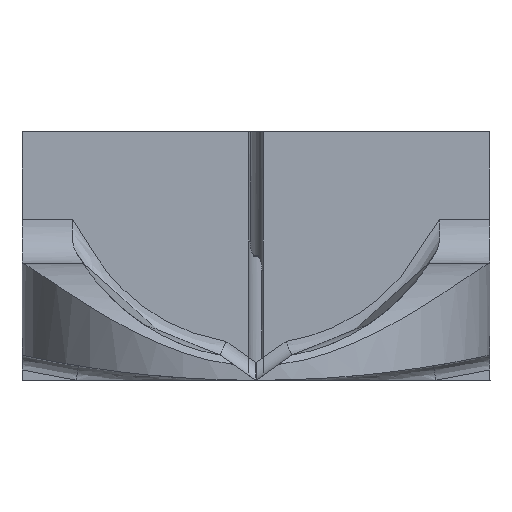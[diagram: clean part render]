
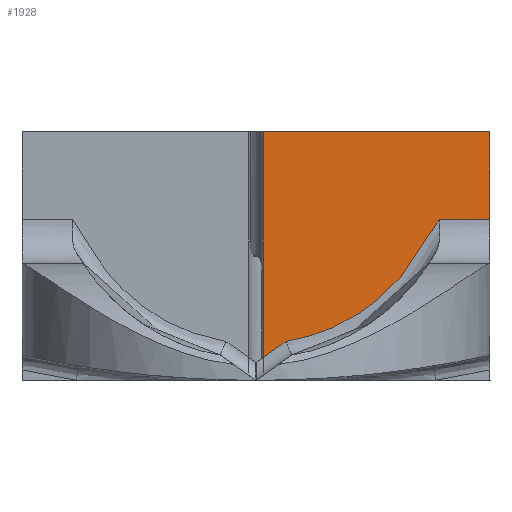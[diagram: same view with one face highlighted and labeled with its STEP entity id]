
A CAD part, left-side view. The second image highlights one B-rep face of the part: STEP entity #1928.
In plain terms, the highlighted planar face has unit normal (1, 0, 0).
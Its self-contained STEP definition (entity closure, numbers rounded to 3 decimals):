
#50 = CARTESIAN_POINT ( 'NONE',  ( -21., -8., -6. ) ) ;
#105 = EDGE_CURVE ( 'NONE', #1496, #1377, #1927, .T. ) ;
#192 = FACE_OUTER_BOUND ( 'NONE', #6833, .T. ) ;
#264 = CARTESIAN_POINT ( 'NONE',  ( -21., -11.742, -7.259 ) ) ;
#287 = CARTESIAN_POINT ( 'NONE',  ( -21., -10.648, -8.958 ) ) ;
#318 = CARTESIAN_POINT ( 'NONE',  ( -21., -8.505, -11.336 ) ) ;
#339 = CARTESIAN_POINT ( 'NONE',  ( -21., -2.842, -14.186 ) ) ;
#441 = DIRECTION ( 'NONE',  ( 0., 0., -1. ) ) ;
#524 = DIRECTION ( 'NONE',  ( 0., 0.819, -0.574 ) ) ;
#596 = EDGE_CURVE ( 'NONE', #5291, #1496, #2897, .T. ) ;
#676 = ORIENTED_EDGE ( 'NONE', *, *, #7178, .F. ) ;
#740 = CARTESIAN_POINT ( 'NONE',  ( -21., -0.5, -5.55 ) ) ;
#826 = LINE ( 'NONE', #4000, #5038 ) ;
#834 = CARTESIAN_POINT ( 'NONE',  ( -21., -11.541, -7.575 ) ) ;
#856 = CARTESIAN_POINT ( 'NONE',  ( -21., -10.629, -8.985 ) ) ;
#878 = CARTESIAN_POINT ( 'NONE',  ( -21., -7.137, -12.393 ) ) ;
#903 = EDGE_CURVE ( 'NONE', #6911, #3377, #826, .T. ) ;
#904 = CARTESIAN_POINT ( 'NONE',  ( -21., -2.614, -14.235 ) ) ;
#1129 = CARTESIAN_POINT ( 'NONE',  ( -21., -16., 0. ) ) ;
#1221 = ORIENTED_EDGE ( 'NONE', *, *, #903, .T. ) ;
#1357 = VECTOR ( 'NONE', #3476, 1000. ) ;
#1377 = VERTEX_POINT ( 'NONE', #4377 ) ;
#1395 = CARTESIAN_POINT ( 'NONE',  ( -21., -12.541, -6. ) ) ;
#1416 = CARTESIAN_POINT ( 'NONE',  ( -21., -11.261, -8.017 ) ) ;
#1440 = CARTESIAN_POINT ( 'NONE',  ( -21., -10.624, -8.991 ) ) ;
#1469 = CARTESIAN_POINT ( 'NONE',  ( -21., -5.884, -13.096 ) ) ;
#1495 = CARTESIAN_POINT ( 'NONE',  ( -21., -2.522, -14.253 ) ) ;
#1496 = VERTEX_POINT ( 'NONE', #1760 ) ;
#1760 = CARTESIAN_POINT ( 'NONE',  ( -21., -0.5, -15.429 ) ) ;
#1797 = DIRECTION ( 'NONE',  ( 0., 0., -1. ) ) ;
#1824 = DIRECTION ( 'NONE',  ( 1., 0., 0. ) ) ;
#1927 = LINE ( 'NONE', #740, #4766 ) ;
#1928 = ADVANCED_FACE ( 'NONE', ( #192 ), #3888, .T. ) ;
#1986 = AXIS2_PLACEMENT_3D ( 'NONE', #2080, #1824, #1797 ) ;
#1996 = CARTESIAN_POINT ( 'NONE',  ( -21., -11.202, -8.11 ) ) ;
#2010 = CARTESIAN_POINT ( 'NONE',  ( -21., 52.024, 0. ) ) ;
#2020 = CARTESIAN_POINT ( 'NONE',  ( -21., -10.2, -9.57 ) ) ;
#2045 = CARTESIAN_POINT ( 'NONE',  ( -21., -5.1, -13.461 ) ) ;
#2070 = CARTESIAN_POINT ( 'NONE',  ( -21., -2.5, -14.257 ) ) ;
#2080 = CARTESIAN_POINT ( 'NONE',  ( -21., -18.2, 1.7 ) ) ;
#2251 = VECTOR ( 'NONE', #5972, 1000. ) ;
#2541 = CARTESIAN_POINT ( 'NONE',  ( -21., -11.997, -6.856 ) ) ;
#2562 = CARTESIAN_POINT ( 'NONE',  ( -21., -11.139, -8.21 ) ) ;
#2585 = CARTESIAN_POINT ( 'NONE',  ( -21., -9.732, -10.12 ) ) ;
#2589 = DIRECTION ( 'NONE',  ( 0., 0., 1. ) ) ;
#2609 = CARTESIAN_POINT ( 'NONE',  ( -21., -4.295, -13.771 ) ) ;
#2640 = CARTESIAN_POINT ( 'NONE',  ( -21., -2.39, -14.279 ) ) ;
#2897 = LINE ( 'NONE', #4672, #4244 ) ;
#3104 = CARTESIAN_POINT ( 'NONE',  ( -21., -11.789, -7.184 ) ) ;
#3130 = CARTESIAN_POINT ( 'NONE',  ( -21., -10.856, -8.65 ) ) ;
#3155 = CARTESIAN_POINT ( 'NONE',  ( -21., -9.34, -10.547 ) ) ;
#3180 = B_SPLINE_CURVE_WITH_KNOTS ( 'NONE', 3,
 ( #1395, #4806, #5941, #2541, #6504, #3104, #7082, #3689, #264, #4272, #834, #4826, #1416, #5389, #1996, #5962, #2562, #6531, #3130, #7106, #3716, #287, #4291, #856, #4851, #1440, #5411, #2020, #5982, #2585, #6557, #3155, #7133, #3741, #318, #4315, #878, #4878, #1469, #5432, #2045, #6011, #2609, #6579, #3181, #7160, #3768, #339, #4344, #904, #4901, #1495, #5463, #2070, #6037, #2640, #6604, #3201 ),
 .UNSPECIFIED., .F., .F.,
 ( 4, 1, 1, 1, 2, 2, 1, 1, 1, 2, 2, 1, 1, 1, 1, 1, 1, 1, 2, 2, 1, 2, 2, 2, 2, 1, 2, 2, 1, 2, 2, 2, 1, 1, 1, 1, 2, 2, 4 ),
 ( 0., 0.063, 0.094, 0.098, 0.1, 0.102, 0.109, 0.125, 0.156, 0.172, 0.176, 0.18, 0.188, 0.219, 0.234, 0.242, 0.246, 0.248, 0.249, 0.25, 0.313, 0.344, 0.375, 0.438, 0.5, 0.625, 0.688, 0.75, 0.813, 0.844, 0.875, 0.938, 0.953, 0.961, 0.965, 0.967, 0.968, 0.969, 1. ),
 .UNSPECIFIED. ) ;
#3181 = CARTESIAN_POINT ( 'NONE',  ( -21., -3.884, -13.907 ) ) ;
#3201 = CARTESIAN_POINT ( 'NONE',  ( -21., -2.058, -14.338 ) ) ;
#3377 = VERTEX_POINT ( 'NONE', #4223 ) ;
#3421 = EDGE_CURVE ( 'NONE', #5899, #5291, #3180, .T. ) ;
#3476 = DIRECTION ( 'NONE',  ( 0., 1., 0. ) ) ;
#3689 = CARTESIAN_POINT ( 'NONE',  ( -21., -11.767, -7.219 ) ) ;
#3716 = CARTESIAN_POINT ( 'NONE',  ( -21., -10.674, -8.92 ) ) ;
#3741 = CARTESIAN_POINT ( 'NONE',  ( -21., -8.72, -11.146 ) ) ;
#3768 = CARTESIAN_POINT ( 'NONE',  ( -21., -3.194, -14.105 ) ) ;
#3888 = PLANE ( 'NONE',  #1986 ) ;
#4000 = CARTESIAN_POINT ( 'NONE',  ( -21., -16., -8.5 ) ) ;
#4223 = CARTESIAN_POINT ( 'NONE',  ( -21., -16., -6. ) ) ;
#4244 = VECTOR ( 'NONE', #524, 1000. ) ;
#4272 = CARTESIAN_POINT ( 'NONE',  ( -21., -11.682, -7.354 ) ) ;
#4291 = CARTESIAN_POINT ( 'NONE',  ( -21., -10.635, -8.977 ) ) ;
#4315 = CARTESIAN_POINT ( 'NONE',  ( -21., -7.836, -11.889 ) ) ;
#4344 = CARTESIAN_POINT ( 'NONE',  ( -21., -2.736, -14.209 ) ) ;
#4377 = CARTESIAN_POINT ( 'NONE',  ( -21., -0.5, 0. ) ) ;
#4672 = CARTESIAN_POINT ( 'NONE',  ( -21., -2.058, -14.338 ) ) ;
#4766 = VECTOR ( 'NONE', #2589, 1000. ) ;
#4806 = CARTESIAN_POINT ( 'NONE',  ( -21., -12.535, -6.008 ) ) ;
#4826 = CARTESIAN_POINT ( 'NONE',  ( -21., -11.381, -7.828 ) ) ;
#4851 = CARTESIAN_POINT ( 'NONE',  ( -21., -10.626, -8.99 ) ) ;
#4878 = CARTESIAN_POINT ( 'NONE',  ( -21., -6.392, -12.824 ) ) ;
#4901 = CARTESIAN_POINT ( 'NONE',  ( -21., -2.552, -14.247 ) ) ;
#5038 = VECTOR ( 'NONE', #441, 1000. ) ;
#5236 = CARTESIAN_POINT ( 'NONE',  ( -21., -2.058, -14.338 ) ) ;
#5261 = LINE ( 'NONE', #2010, #2251 ) ;
#5291 = VERTEX_POINT ( 'NONE', #5236 ) ;
#5389 = CARTESIAN_POINT ( 'NONE',  ( -21., -11.211, -8.096 ) ) ;
#5411 = CARTESIAN_POINT ( 'NONE',  ( -21., -10.458, -9.228 ) ) ;
#5432 = CARTESIAN_POINT ( 'NONE',  ( -21., -5.625, -13.224 ) ) ;
#5463 = CARTESIAN_POINT ( 'NONE',  ( -21., -2.508, -14.256 ) ) ;
#5673 = ORIENTED_EDGE ( 'NONE', *, *, #3421, .T. ) ;
#5727 = ORIENTED_EDGE ( 'NONE', *, *, #6977, .T. ) ;
#5899 = VERTEX_POINT ( 'NONE', #6373 ) ;
#5941 = CARTESIAN_POINT ( 'NONE',  ( -21., -12.382, -6.249 ) ) ;
#5962 = CARTESIAN_POINT ( 'NONE',  ( -21., -11.177, -8.151 ) ) ;
#5972 = DIRECTION ( 'NONE',  ( 0., 1., 0. ) ) ;
#5982 = CARTESIAN_POINT ( 'NONE',  ( -21., -9.922, -9.902 ) ) ;
#6011 = CARTESIAN_POINT ( 'NONE',  ( -21., -4.701, -13.626 ) ) ;
#6037 = CARTESIAN_POINT ( 'NONE',  ( -21., -2.494, -14.259 ) ) ;
#6176 = ORIENTED_EDGE ( 'NONE', *, *, #105, .T. ) ;
#6373 = CARTESIAN_POINT ( 'NONE',  ( -21., -12.541, -6. ) ) ;
#6504 = CARTESIAN_POINT ( 'NONE',  ( -21., -11.818, -7.138 ) ) ;
#6531 = CARTESIAN_POINT ( 'NONE',  ( -21., -11.006, -8.42 ) ) ;
#6557 = CARTESIAN_POINT ( 'NONE',  ( -21., -9.634, -10.23 ) ) ;
#6579 = CARTESIAN_POINT ( 'NONE',  ( -21., -4.022, -13.863 ) ) ;
#6604 = CARTESIAN_POINT ( 'NONE',  ( -21., -2.246, -14.305 ) ) ;
#6733 = ORIENTED_EDGE ( 'NONE', *, *, #596, .T. ) ;
#6833 = EDGE_LOOP ( 'NONE', ( #676, #1221, #5727, #5673, #6733, #6176 ) ) ;
#6911 = VERTEX_POINT ( 'NONE', #1129 ) ;
#6977 = EDGE_CURVE ( 'NONE', #3377, #5899, #7234, .T. ) ;
#7082 = CARTESIAN_POINT ( 'NONE',  ( -21., -11.77, -7.214 ) ) ;
#7106 = CARTESIAN_POINT ( 'NONE',  ( -21., -10.731, -8.837 ) ) ;
#7133 = CARTESIAN_POINT ( 'NONE',  ( -21., -9.138, -10.751 ) ) ;
#7160 = CARTESIAN_POINT ( 'NONE',  ( -21., -3.474, -14.031 ) ) ;
#7178 = EDGE_CURVE ( 'NONE', #6911, #1377, #5261, .T. ) ;
#7234 = LINE ( 'NONE', #50, #1357 ) ;
